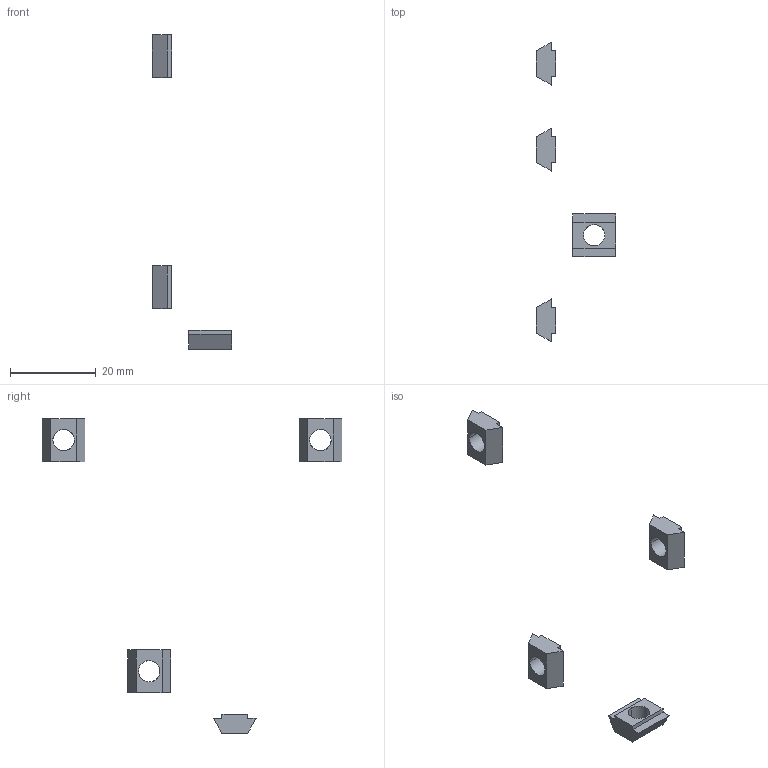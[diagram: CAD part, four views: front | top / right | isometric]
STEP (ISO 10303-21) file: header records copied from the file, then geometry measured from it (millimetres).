
FILE_DESCRIPTION(/* description */ (''),/* implementation_level */ '2;1');
FILE_NAME(/* name */ '5.y-cart#5.5#HNTE5-5',/* time_stamp */ '2014-12-01T20:13:24+01:00',/* author */ (''),/* organization */ (''),/* preprocessor_version */ 'ST-DEVELOPER v14',/* originating_system */ '',/* authorisation */ '');
FILE_SCHEMA (('AUTOMOTIVE_DESIGN'));
Length unit declared in the file: millimetre
Products named in the file (1): Document
Bounding box: 18.5 x 70 x 73.5 mm (x, y, z)
Volume: 1006.1 mm3; surface area: 1439.8 mm2
Topology: 4 solids, 4 shells, 48 faces, 120 edges, 80 vertices
Faces by surface type: plane 40, bspline 8
Entity records: 3031 total; most frequent: CARTESIAN_POINT 1305, B_SPLINE_CURVE_WITH_KNOTS 336, ORIENTED_EDGE 240, PCURVE 240, DEFINITIONAL_REPRESENTATION 240, SURFACE_CURVE 120, EDGE_CURVE 120, VERTEX_POINT 80
